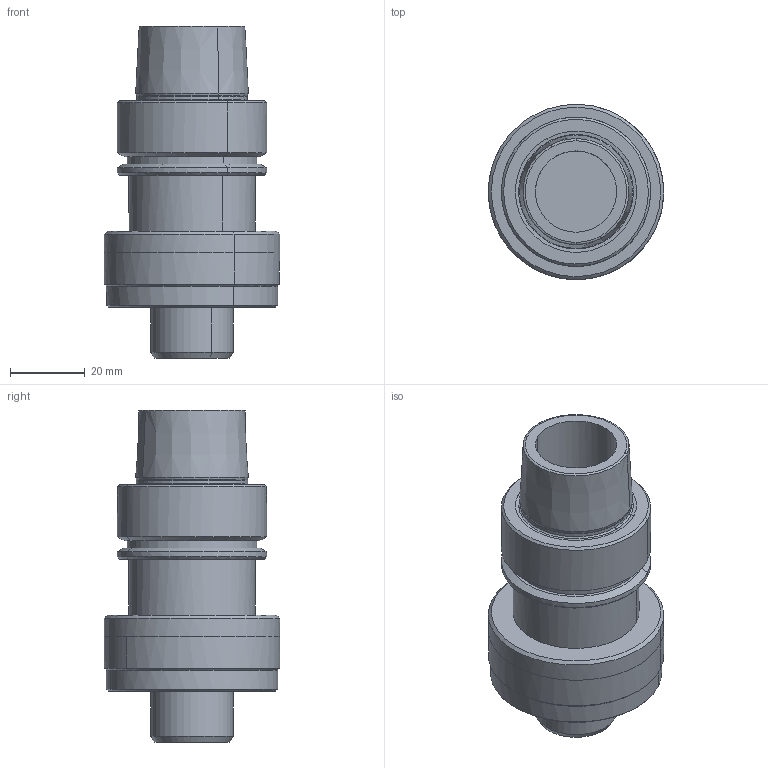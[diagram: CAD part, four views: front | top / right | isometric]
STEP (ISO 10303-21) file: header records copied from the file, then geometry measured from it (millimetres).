
FILE_DESCRIPTION(('CATIA V5 STEP','CAx-IF Rec.Pracs.--- Model Styling and Organization---1.2---2011-12-15'),'2;1');
FILE_NAME('C:\eit\appserv\eitdev\tmp\eit\transmagicconvert\1375928\4504487-L-M.stp','2017-04-13T04:59:32+00:00',('none'),('none'),'CATIA Version 5 Release 21 SP 5 (IN-10)','CATIA V5 STEP AP214','none');
FILE_SCHEMA(('AUTOMOTIVE_DESIGN { 1 0 10303 214 1 1 1 1 }'));
Length unit declared in the file: millimetre
Products named in the file (1): HSK E 40 SEM 22X50
Bounding box: 46.99 x 47 x 89 mm (x, y, z)
Volume: 78869.8 mm3; surface area: 17341 mm2
Topology: 1 solids, 1 shells, 108 faces, 233 edges, 135 vertices
Faces by surface type: revolution 39, cylinder 30, cone 28, plane 11
Entity records: 3895 total; most frequent: CARTESIAN_POINT 1611, ORIENTED_EDGE 462, DIRECTION 330, EDGE_CURVE 231, AXIS2_PLACEMENT_3D 168, VERTEX_POINT 135, EDGE_LOOP 118, B_SPLINE_CURVE_WITH_KNOTS 111
